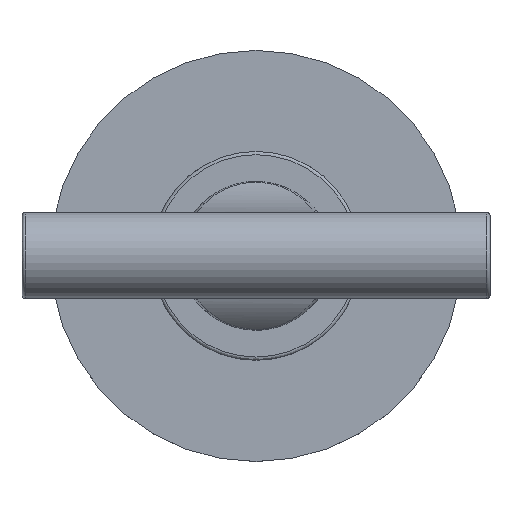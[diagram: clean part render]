
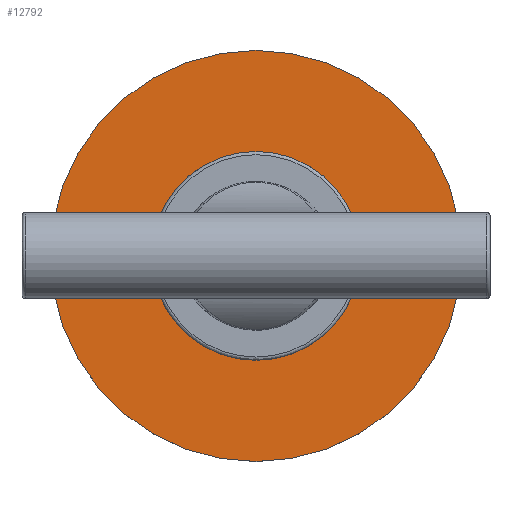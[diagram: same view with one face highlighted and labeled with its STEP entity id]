
A CAD part, top view. The second image highlights one B-rep face of the part: STEP entity #12792.
In plain terms, the highlighted planar face has unit normal (0, 0, 1).
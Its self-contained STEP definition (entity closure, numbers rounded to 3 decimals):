
#12745=CARTESIAN_POINT('',(32.5,90.0,48.5));
#12746=VERTEX_POINT('',#12745);
#12753=CARTESIAN_POINT('',(-32.5,90.0,48.5));
#12754=VERTEX_POINT('',#12753);
#12755=CARTESIAN_POINT('',(0.0,90.0,48.5));
#12756=DIRECTION('',(0.0,0.0,1.0));
#12757=DIRECTION('',(1.0,0.0,0.0));
#12758=AXIS2_PLACEMENT_3D('',#12755,#12756,#12757);
#12759=CIRCLE('',#12758,32.5);
#12760=EDGE_CURVE('',#12754,#12746,#12759,.T.);
#12762=CARTESIAN_POINT('',(0.0,90.0,48.5));
#12763=DIRECTION('',(0.0,0.0,1.0));
#12764=DIRECTION('',(1.0,0.0,0.0));
#12765=AXIS2_PLACEMENT_3D('',#12762,#12763,#12764);
#12766=CIRCLE('',#12765,32.5);
#12767=EDGE_CURVE('',#12746,#12754,#12766,.T.);
#12783=CARTESIAN_POINT('',(-39.001,50.999,48.5));
#12784=DIRECTION('',(0.0,0.0,1.0));
#12785=DIRECTION('',(1.0,0.0,0.0));
#12786=AXIS2_PLACEMENT_3D('',#12783,#12784,#12785);
#12787=PLANE('',#12786);
#12788=ORIENTED_EDGE('',*,*,#12767,.T.);
#12789=ORIENTED_EDGE('',*,*,#12760,.T.);
#12790=EDGE_LOOP('',(#12788,#12789));
#12791=FACE_OUTER_BOUND('',#12790,.T.);
#12792=ADVANCED_FACE('',(#12791),#12787,.T.);
